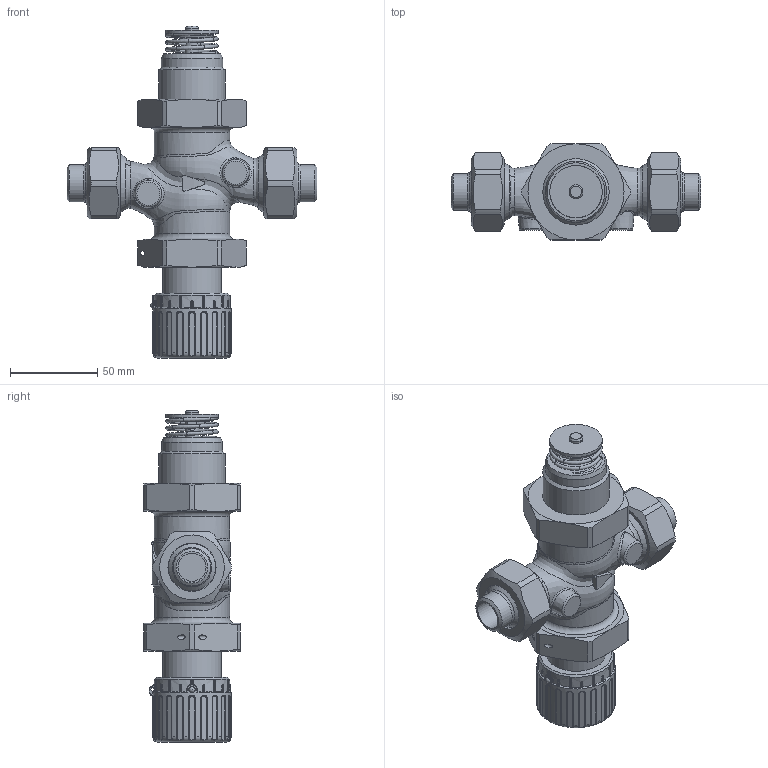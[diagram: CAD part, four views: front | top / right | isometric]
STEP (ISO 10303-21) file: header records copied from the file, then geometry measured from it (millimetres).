
FILE_DESCRIPTION(/* description */ (''),/* implementation_level */ '2;1');
FILE_NAME(/* name */ 'rv122p_dn15_W.stp',/* time_stamp */ '2012-11-05T15:51:28+01:00',/* author */ ('JENIK'),/* organization */ ('LDM'),/* preprocessor_version */ 'ST-DEVELOPER v11',/* originating_system */ 'SIEMENS PLM Software NX 7.0',/* authorisation */ '');
FILE_SCHEMA (('CONFIG_CONTROL_DESIGN'));
Length unit declared in the file: millimetre
Products named in the file (1): jeniA85B0dvw
Bounding box: 143 x 55 x 190 mm (x, y, z)
Volume: 38747.8 mm3; surface area: 63367.3 mm2
Topology: 6 solids, 7 shells, 603 faces, 1488 edges, 917 vertices
Faces by surface type: cylinder 216, plane 155, bspline 107, torus 72, cone 52, sphere 1
Full cylindrical faces by diameter (mm): 2 x1, 2.5 x1, 8 x2, 16.1 x2, 21 x2, 21.3 x2, 24.5 x1, 27 x2, 27.5 x2, 30 x5, 30.291 x2, 33.249 x2, 33.8 x1, 35 x1, 37 x1, 38 x1, 43 x3
Entity records: 28250 total; most frequent: CARTESIAN_POINT 15491, ORIENTED_EDGE 2696, DIRECTION 2440, EDGE_CURVE 1348, AXIS2_PLACEMENT_3D 1028, VERTEX_POINT 866, EDGE_LOOP 724, ADVANCED_FACE 601
